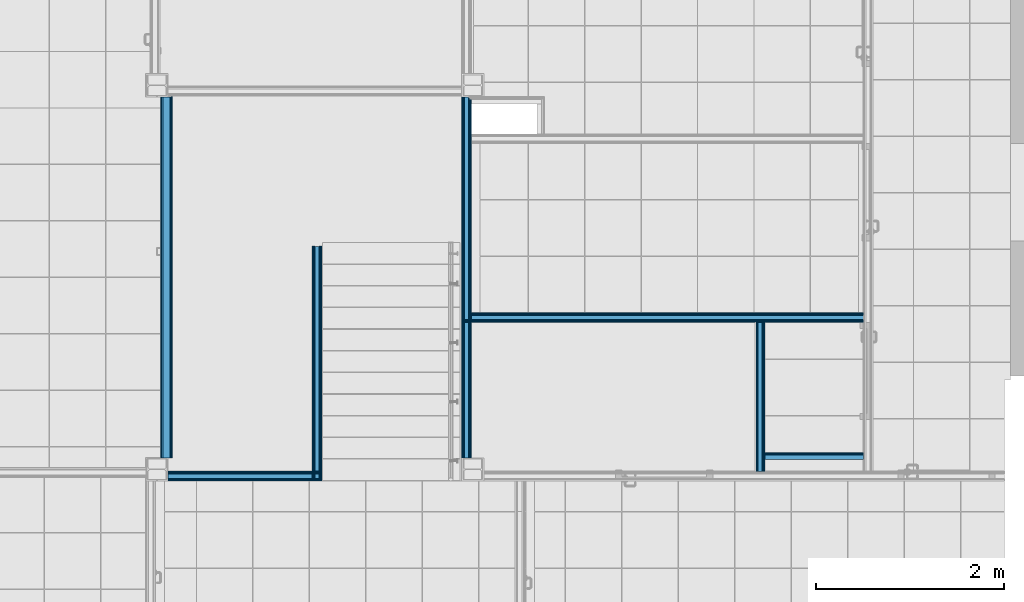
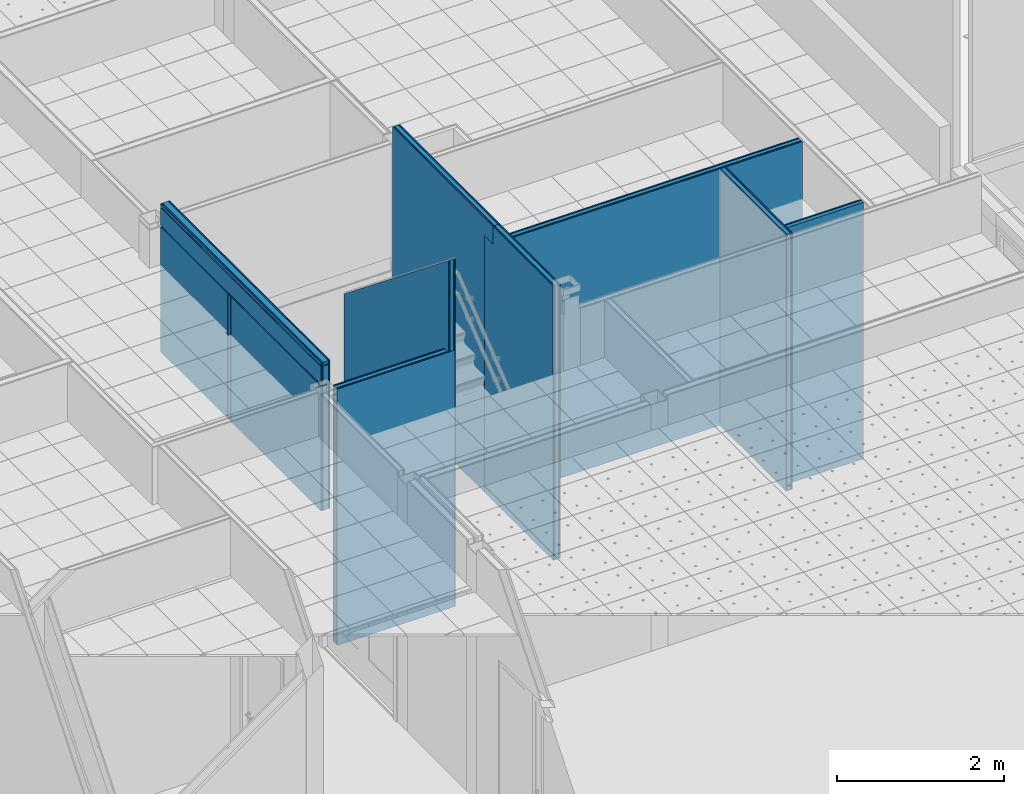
# One storey, part 81 of 338: 37 building element parts, 8 elements without a shape of their own.
"""IFC2X3 building model written with IfcOpenShell, lengths in millimetres."""

import ifcopenshell
import ifcopenshell.guid

model = None  # the IFC model being written
_history = None  # IfcOwnerHistory: only IFC2X3 demands one
_inside = {}  # id of a spatial element -> (the spatial element, [elements in it])
_under = {}  # id of a project, library or spatial element -> (it, [spatial elements below it])
_declared = {}  # id of a project -> (the project, [libraries it declares])
_typed = {}  # id of a type object -> (the type object, [elements of that type])
_made_of = {}  # id of a material, layer set ... -> (it, [elements and type objects made of it])


def new_model(schema):
    """Start an empty IFC model of exactly this schema.

    Asked for "IFC4X3", IfcOpenShell would pick the latest addendum, in which some entities
    have other attributes; the version numbers below select the first issue.
    IFC2X3 requires an IfcOwnerHistory on every rooted entity: one is made here for all.
    """
    global model, _history
    if schema == "IFC4X3":
        model = ifcopenshell.file(schema_version=(4, 3, 0, 0))
    else:
        model = ifcopenshell.file(schema=schema)
    _inside.clear()
    _under.clear()
    _declared.clear()
    _typed.clear()
    _made_of.clear()
    _history = None
    if model.schema == "IFC2X3":
        org = make("IfcOrganization", Name="unknown")
        user = make(
            "IfcPersonAndOrganization",
            ThePerson=make("IfcPerson", FamilyName="unknown"),
            TheOrganization=org,
        )
        app = make(
            "IfcApplication",
            ApplicationDeveloper=org,
            Version="unknown",
            ApplicationFullName="unknown",
            ApplicationIdentifier="unknown",
        )
        _history = make(
            "IfcOwnerHistory",
            OwningUser=user,
            OwningApplication=app,
            ChangeAction="ADDED",
            CreationDate=0,
        )
    return model


def make(cls, **values):
    """One entity of the class cls with the attributes given. An attribute that is None is left unset."""
    return model.create_entity(
        cls, **{name: value for name, value in values.items() if value is not None}
    )


def entity(cls, *values):
    """Any entity or typed value of the class cls, its attributes in the order of the schema. None: left unset."""
    e = model.create_entity(cls)
    for i, value in enumerate(values):
        if value is not None:
            e[i] = value
    return e


def rooted(cls, **values):
    """An entity with a GlobalId (a new one), such as an element, a storey or a relation."""
    return make(cls, GlobalId=ifcopenshell.guid.new(), OwnerHistory=_history, **values)


def si_unit(unit_type, name, prefix=None):
    """IfcSIUnit, for example si_unit("LENGTHUNIT", "METRE", prefix="MILLI")."""
    return make("IfcSIUnit", UnitType=unit_type, Prefix=prefix, Name=name)


def converted_unit(unit_type, name, factor, base, dimensions=None, offset=None):
    """IfcConversionBasedUnit, such as the inch: factor (a typed value) times the base unit."""
    return make(
        "IfcConversionBasedUnit"
        if offset is None
        else "IfcConversionBasedUnitWithOffset",
        ConversionOffset=offset,
        Dimensions=None
        if dimensions is None
        else entity("IfcDimensionalExponents", *dimensions),
        UnitType=unit_type,
        Name=name,
        ConversionFactor=make(
            "IfcMeasureWithUnit", ValueComponent=factor, UnitComponent=base
        ),
    )


def derived_unit(unit_type, elements):
    """IfcDerivedUnit: a product of units, each with its exponent."""
    return make(
        "IfcDerivedUnit",
        Elements=[
            make("IfcDerivedUnitElement", Unit=unit, Exponent=power)
            for unit, power in elements
        ],
        UnitType=unit_type,
    )


def money_unit(currency):
    """IfcMonetaryUnit."""
    return make("IfcMonetaryUnit", Currency=currency)


def assignment(units):
    """IfcUnitAssignment: the units of a project."""
    return None if units is None else make("IfcUnitAssignment", Units=units)


def point(xyz):
    """IfcCartesianPoint."""
    return None if xyz is None else make("IfcCartesianPoint", Coordinates=xyz)


def direction(xyz):
    """IfcDirection."""
    return None if xyz is None else make("IfcDirection", DirectionRatios=xyz)


def frame(location, z_axis=None, x_axis=None):
    """IfcAxis2Placement3D, a coordinate frame: its origin and axes. An axis left out is left unset."""
    return make(
        "IfcAxis2Placement3D",
        Location=point(location),
        Axis=direction(z_axis),
        RefDirection=direction(x_axis),
    )


def origin_with_axes():
    """The frame at (0, 0, 0) with the z axis (0, 0, 1) and the x axis (1, 0, 0) written out."""
    return frame((0.0, 0.0, 0.0), z_axis=(0.0, 0.0, 1.0), x_axis=(1.0, 0.0, 0.0))


def place(relative_to, where):
    """IfcLocalPlacement: puts the frame where relative to a parent placement (None: the world)."""
    return make(
        "IfcLocalPlacement", PlacementRelTo=relative_to, RelativePlacement=where
    )


def context(
    kind, dimensions, precision=None, world=None, true_north=None, identifier=None
):
    """IfcGeometricRepresentationContext, for example the 3D "Model" context."""
    return make(
        "IfcGeometricRepresentationContext",
        ContextIdentifier=identifier,
        ContextType=kind,
        CoordinateSpaceDimension=dimensions,
        Precision=precision,
        WorldCoordinateSystem=world,
        TrueNorth=true_north,
    )


def subcontext(parent, identifier, kind, view, scale=None):
    """IfcGeometricRepresentationSubContext, for example "Body" below "Model"."""
    return make(
        "IfcGeometricRepresentationSubContext",
        ContextIdentifier=identifier,
        ContextType=kind,
        ParentContext=parent,
        TargetScale=scale,
        TargetView=view,
    )


def project(units=None, contexts=None):
    """IfcProject with its units and contexts."""
    return rooted(
        "IfcProject",
        Name="project",
        RepresentationContexts=contexts,
        UnitsInContext=assignment(units),
    )


def spatial(cls, under=None, at=None, **own):
    """A site, building, storey or space (cls), placed at a placement, below another one or the project."""
    s = rooted(cls, ObjectPlacement=at, **own)
    if under is not None:
        _under.setdefault(under.id(), (under, []))[1].append(s)
    return s


def faces_of(points, faces, orient=None, outer=None):
    """IfcFace entities. A face is a list of loops; a loop is a list of indices into points, from 0.

    orient and outer hold one flag for each loop. By default every Orientation is true, the
    first loop of a face is its IfcFaceOuterBound and the others are IfcFaceBound.
    """
    made = []
    for i, loops in enumerate(faces):
        bounds = []
        for j, loop in enumerate(loops):
            is_outer = j == 0 if outer is None else outer[i][j]
            bounds.append(
                make(
                    "IfcFaceOuterBound" if is_outer else "IfcFaceBound",
                    Bound=make("IfcPolyLoop", Polygon=[points[k] for k in loop]),
                    Orientation=True if orient is None else orient[i][j],
                )
            )
        made.append(make("IfcFace", Bounds=bounds))
    return made


def faceted_brep(points, faces, orient=None, outer=None, voids=None):
    """IfcFacetedBrep: a solid bounded by flat faces; with voids (closed shells), ...WithVoids."""
    shared = [point(p) for p in points]
    hull = make("IfcClosedShell", CfsFaces=faces_of(shared, faces, orient, outer))
    if voids is None:
        return make("IfcFacetedBrep", Outer=hull)
    return make(
        "IfcFacetedBrepWithVoids",
        Outer=hull,
        Voids=[
            make(cls, CfsFaces=faces_of(shared, fs, o, b)) for cls, fs, o, b in voids
        ],
    )


def shape(context_of_items, identifier, shape_type, items):
    """IfcShapeRepresentation: the items that make up one representation, for example the "Body"."""
    return make(
        "IfcShapeRepresentation",
        ContextOfItems=context_of_items,
        RepresentationIdentifier=identifier,
        RepresentationType=shape_type,
        Items=items,
    )


def material(Name=None, Category=None):
    """IfcMaterial."""
    return make("IfcMaterial", Name=Name, Category=Category)


def made_of(thing, what):
    """Note that an element or type object is made of a material, layer set ...; save() writes the relation."""
    if what is not None:
        _made_of.setdefault(what.id(), (what, []))[1].append(thing)
    return thing


def type_object(cls, material=None, **own):
    """A type object (cls), such as IfcWallType, which elements share."""
    return made_of(rooted(cls, **own), material)


def element(
    cls,
    number,
    at=None,
    inside=None,
    cuts=None,
    type_object=None,
    material=None,
    context=None,
    identifier="Body",
    shape_type=None,
    held_by="IfcProductDefinitionShape",
    body=None,
    shapes=None,
    **own,
):
    """One element of the class cls, such as IfcWall. Its Tag is "e" and its number.

    at: its placement. inside: the storey or other place that contains it. cuts: it is an
    opening in that element (IfcRelVoidsElement). A single representation is given by context,
    identifier, shape_type and body (its items); several are given by shapes. held_by: the class
    of the entity that holds the representations. save() writes the other relations.
    """
    e = rooted(cls, Tag="e%d" % number, ObjectPlacement=at, **own)
    if body is not None:
        shapes = [shape(context, identifier, shape_type, body)]
    if shapes is not None:
        e.Representation = make(held_by, Representations=shapes)
    if inside is not None:
        _inside.setdefault(inside.id(), (inside, []))[1].append(e)
    if cuts is not None:
        rooted(
            "IfcRelVoidsElement", RelatingBuildingElement=cuts, RelatedOpeningElement=e
        )
    if type_object is not None:
        _typed.setdefault(type_object.id(), (type_object, []))[1].append(e)
    return made_of(e, material)


def aggregate(whole, parts):
    """IfcRelAggregates: a whole, such as a stair, and the parts it consists of."""
    return rooted("IfcRelAggregates", RelatingObject=whole, RelatedObjects=parts)


def save(model, path):
    """Write the relations noted so far, then the file.

    IfcRelAggregates (storeys below a building ...), IfcRelContainedInSpatialStructure (elements
    in a storey), IfcRelDefinesByType, IfcRelAssociatesMaterial and IfcRelDeclares: one each for
    every whole, place, type object, material and project.
    """
    for whole, parts in _under.values():
        aggregate(whole, parts)
    for where, things in _inside.values():
        rooted(
            "IfcRelContainedInSpatialStructure",
            RelatedElements=things,
            RelatingStructure=where,
        )
    for kind, things in _typed.values():
        rooted("IfcRelDefinesByType", RelatedObjects=things, RelatingType=kind)
    for what, things in _made_of.values():
        rooted("IfcRelAssociatesMaterial", RelatedObjects=things, RelatingMaterial=what)
    for by, libraries in _declared.values():
        rooted("IfcRelDeclares", RelatingContext=by, RelatedDefinitions=libraries)
    model.write(path)


model = new_model("IFC2X3")

# Units and contexts
model_context = context("Model", 3, precision=0.01, world=origin_with_axes(), true_north=direction((0.0, 1.0)))
plan_context = context("Plan", 3, precision=0.01, world=origin_with_axes(), true_north=direction((0.0, 1.0)))
body_context = subcontext(model_context, "Body", "Model", "MODEL_VIEW")
ifc_project = project(units=[si_unit("LENGTHUNIT", "METRE", prefix="MILLI"), si_unit("AREAUNIT", "SQUARE_METRE"), si_unit("VOLUMEUNIT", "CUBIC_METRE"), converted_unit("PLANEANGLEUNIT", "DEGREE", entity("IfcPlaneAngleMeasure", 0.0174532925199), si_unit("PLANEANGLEUNIT", "RADIAN"), dimensions=[0, 0, 0, 0, 0, 0, 0]), money_unit("EUR"), converted_unit("TIMEUNIT", "Year", entity("IfcTimeMeasure", 31556926.0), si_unit("TIMEUNIT", "SECOND"), dimensions=[0, 0, 1, 0, 0, 0, 0]), si_unit("MASSUNIT", "GRAM", prefix="KILO"), si_unit("THERMODYNAMICTEMPERATUREUNIT", "DEGREE_CELSIUS"), si_unit("LUMINOUSINTENSITYUNIT", "LUMEN"), si_unit("ENERGYUNIT", "JOULE", prefix="MEGA"), derived_unit("THERMALCONDUCTANCEUNIT", [(si_unit("POWERUNIT", "WATT"), 1), (si_unit("LENGTHUNIT", "METRE"), -1), (si_unit("THERMODYNAMICTEMPERATUREUNIT", "KELVIN"), -1)]), derived_unit("SPECIFICHEATCAPACITYUNIT", [(si_unit("ENERGYUNIT", "JOULE"), 1), (si_unit("MASSUNIT", "GRAM", prefix="KILO"), -1), (si_unit("THERMODYNAMICTEMPERATUREUNIT", "KELVIN"), -1)]), derived_unit("MASSDENSITYUNIT", [(si_unit("MASSUNIT", "GRAM", prefix="KILO"), 1), (si_unit("VOLUMEUNIT", "CUBIC_METRE"), -1)])], contexts=[model_context, plan_context])

# Site, building, storey
site_placement = place(None, origin_with_axes())
site = spatial("IfcSite", under=ifc_project, at=site_placement, Name="Fortuinstraat Woensdrecht", CompositionType="ELEMENT")
building_placement = place(site_placement, origin_with_axes())
building = spatial("IfcBuilding", under=site, at=building_placement, Name="IKC Fortuna", CompositionType="ELEMENT")
storey_placement = place(building_placement, origin_with_axes())
storey = spatial("IfcBuildingStorey", under=building, at=storey_placement, Name="00 begane grond", CompositionType="ELEMENT", Elevation=0.0)

# Covering, building element parts
covering_type = type_object("IfcCoveringType", Name="MS125 2.75.2A 125", PredefinedType="NOTDEFINED")
covering_placement = place(storey_placement, frame((25777.9349765, 23879.7966407, 1750.0), z_axis=(0.0, 0.0, 1.0), x_axis=(0.0, -1.0, 0.0)))
covering = element("IfcCovering", 1, at=covering_placement, inside=storey, type_object=covering_type, Name="41_Afwerking_Waterslag", PredefinedType="NOTDEFINED")
ifc_material_1 = material(Name="Gipsplaat")
building_element_part_1_placement = place(covering_placement, origin_with_axes())
building_element_part_1 = element("IfcBuildingElementPart", 2, at=building_element_part_1_placement, material=ifc_material_1, Name="Gipsplaat", context=body_context, shape_type="Brep", body=[
    faceted_brep([(3835.00001242, 0.0, 0.0), (0.0, 0.0, 0.0), (0.0, 0.0, 50.0), (1682.50001242, 0.0, 50.0), (1682.50001242, 0.0, 250.0), (0.0, 0.0, 250.0), (0.0, 0.0, 2160.0), (3835.00001242, 0.0, 2160.0), (3835.00001242, -12.5, 0.0), (0.0, -12.5, 0.0), (0.0, -12.5, 50.0), (1682.50001242, -12.5, 50.0), (1682.50001242, -12.5, 250.0), (0.0, -12.5, 250.0), (0.0, -12.5, 2160.0), (3835.00001242, -12.5, 2160.0)], [[[0, 1, 2, 3, 4, 5, 6, 7]], [[0, 8, 9, 1]], [[2, 1, 9, 10]], [[2, 10, 11, 3]], [[3, 11, 12, 4]], [[5, 4, 12, 13]], [[13, 14, 6, 5]], [[15, 7, 6, 14]], [[15, 8, 0, 7]], [[14, 13, 12, 11, 10, 9, 8, 15]]]),
])
building_element_part_2_placement = place(covering_placement, origin_with_axes())
building_element_part_2 = element("IfcBuildingElementPart", 3, at=building_element_part_2_placement, material=ifc_material_1, Name="Gipsplaat", context=body_context, shape_type="Brep", body=[
    faceted_brep([(0.0, -12.5, 250.0), (0.0, -25.0, 250.0), (0.0, -25.0, 1820.0), (0.0, -12.5, 1820.0), (1682.50001242, -12.5, 250.0), (1682.50001242, -25.0, 250.0), (0.0, -25.0, 0.0), (3835.00001242, -25.0, 0.0), (3835.00001242, -25.0, 1820.0), (1682.50001242, -25.0, 50.0), (0.0, -25.0, 50.0), (3835.00001242, -12.5, 1820.0), (3835.00001242, -12.5, 0.0), (0.0, -12.5, 0.0), (0.0, -12.5, 50.0), (1682.50001242, -12.5, 50.0)], [[[0, 1, 2, 3]], [[0, 4, 5, 1]], [[6, 7, 8, 2, 1, 5, 9, 10]], [[2, 8, 11, 3]], [[4, 0, 3, 11, 12, 13, 14, 15]], [[15, 9, 5, 4]], [[12, 7, 6, 13]], [[7, 12, 11, 8]], [[14, 10, 9, 15]], [[14, 13, 6, 10]]]),
    faceted_brep([(0.0, -12.5, 2101.0), (3835.00001242, -12.5, 2101.0), (3835.00001242, -12.5, 1839.0), (0.0, -12.5, 1839.0), (0.0, -25.0, 2101.0), (3835.00001242, -25.0, 2101.0), (3835.00001242, -25.0, 1839.0), (0.0, -25.0, 1839.0)], [[[0, 1, 2, 3]], [[1, 0, 4, 5]], [[1, 5, 6, 2]], [[7, 3, 2, 6]], [[4, 0, 3, 7]], [[5, 4, 7, 6]]]),
    faceted_brep([(3835.00001242, -12.5, 2120.0), (0.0, -12.5, 2120.0), (0.0, -12.5, 2160.0), (3835.00001242, -12.5, 2160.0), (0.0, -25.0, 2120.0), (3835.00001242, -25.0, 2120.0), (0.0, -25.0, 2160.0), (3835.00001242, -25.0, 2160.0)], [[[0, 1, 2, 3]], [[4, 1, 0, 5]], [[1, 4, 6, 2]], [[2, 6, 7, 3]], [[5, 0, 3, 7]], [[4, 5, 7, 6]]]),
])
ifc_material_2 = material(Name="Isolatie - Steenwol LSW")
building_element_part_3_placement = place(covering_placement, origin_with_axes())
building_element_part_3 = element("IfcBuildingElementPart", 4, at=building_element_part_3_placement, material=ifc_material_2, Name="Isolatie - Steenwol LSW", context=body_context, shape_type="Brep", body=[
    faceted_brep([(1682.50001242, -79.5, 200.0), (1682.50001242, -83.5, 200.0), (1672.50001245, -83.500000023, 200.0), (1612.50001245, -83.500000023, 200.0), (0.0, -83.5, 200.0), (0.0, -79.5, 200.0), (1682.50001242, -75.2573593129, 198.242640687), (1682.50001242, -73.5, 194.0), (1682.50001242, -73.5, 50.0), (1682.50001242, -83.5, 50.0), (1672.50001245, -83.500000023, 50.0), (1672.50001245, -83.500000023, 1820.0), (1612.50001245, -83.500000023, 1820.0), (0.0, -83.5, 50.0), (1612.50001245, -83.500000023, 50.0), (0.0, -25.0, 50.0), (0.0, -25.0, 0.0), (0.0, -100.0, 0.0), (0.0, -100.0, 1820.0), (0.0, -25.0, 1820.0), (0.0, -25.0, 250.0), (0.0, -73.5, 250.0), (0.0, -73.5, 194.0), (0.0, -75.2573593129, 198.242640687), (1682.50001242, -25.0, 250.0), (1682.50001242, -25.0, 50.0), (1682.50001242, -73.5, 250.0), (1672.50001245, -83.500000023, 0.0), (1679.57108026, -86.4289322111, 0.0), (1679.57108026, -86.4289322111, 1820.0), (1602.50001245, -100.0, 1820.0), (1602.50001245, -93.500000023, 1820.0), (1605.42894463, -86.4289322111, 1820.0), (1682.50001245, -93.500000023, 1820.0), (1682.50001245, -100.0, 1820.0), (3835.00001242, -100.0, 1820.0), (3835.00001242, -25.0, 1820.0), (1605.42894463, -86.4289322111, 0.0), (1612.50001245, -83.500000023, 0.0), (3835.00001242, -25.0, 0.0), (1602.50001245, -93.500000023, 0.0), (1602.50001245, -100.0, 0.0), (3835.00001242, -100.0, 0.0), (1682.50001245, -100.0, 0.0), (1682.50001245, -93.500000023, 0.0)], [[[0, 1, 2, 3, 4, 5]], [[1, 0, 6, 7, 8, 9]], [[1, 9, 10, 2]], [[3, 2, 11, 12]], [[13, 4, 3, 14]], [[15, 16, 17, 18, 19, 20, 21, 22, 23, 5, 4, 13]], [[23, 6, 0, 5]], [[22, 7, 6, 23]], [[24, 25, 8, 7, 26]], [[15, 13, 14, 10, 9, 8, 25]], [[27, 28, 29, 11, 2, 10]], [[18, 30, 31, 32, 12, 11, 29, 33, 34, 35, 36, 19]], [[14, 3, 12, 32, 37, 38]], [[25, 24, 20, 19, 36, 39, 16, 15]], [[38, 37, 40, 41, 17, 16, 39, 42, 43, 44, 28, 27]], [[18, 17, 41, 30]], [[21, 20, 24, 26]], [[22, 21, 26, 7]], [[38, 27, 10, 14]], [[28, 44, 33, 29]], [[41, 40, 31, 30]], [[40, 37, 32, 31]], [[44, 43, 34, 33]], [[42, 35, 34, 43]], [[35, 42, 39, 36]]]),
    faceted_brep([(1673.91422601, -92.0857864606, 1820.0), (1672.50001245, -91.500000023, 1820.0), (1612.50001245, -91.500000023, 1820.0), (1611.08579888, -92.0857864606, 1820.0), (1610.50001245, -93.500000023, 1820.0), (1610.50001245, -100.0, 1820.0), (1674.50001245, -100.0, 1820.0), (1674.50001245, -93.500000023, 1820.0), (1673.91422601, -92.0857864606, 0.0), (1672.50001245, -91.500000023, 0.0), (1612.50001245, -91.500000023, 0.0), (1611.08579888, -92.0857864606, 0.0), (1610.50001245, -93.500000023, 0.0), (1610.50001245, -100.0, 0.0), (1674.50001245, -100.0, 0.0), (1674.50001245, -93.500000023, 0.0)], [[[0, 1, 2, 3, 4, 5, 6, 7]], [[1, 0, 8, 9]], [[2, 1, 9, 10]], [[3, 2, 10, 11]], [[4, 3, 11, 12]], [[5, 4, 12, 13]], [[14, 6, 5, 13]], [[7, 6, 14, 15]], [[0, 7, 15, 8]], [[15, 14, 13, 12, 11, 10, 9, 8]]]),
    faceted_brep([(0.0, -25.0, 1839.0), (0.0, -25.0, 2101.0), (3835.00001242, -25.0, 2101.0), (3835.00001242, -25.0, 1839.0), (0.0, -100.0, 1839.0), (0.0, -100.0, 2101.0), (3835.00001242, -100.0, 2101.0), (3835.00001242, -100.0, 1839.0)], [[[0, 1, 2, 3]], [[4, 5, 1, 0]], [[6, 2, 1, 5]], [[3, 2, 6, 7]], [[7, 4, 0, 3]], [[7, 6, 5, 4]]]),
    faceted_brep([(3835.00001242, -25.0, 2120.0), (0.0, -25.0, 2120.0), (0.0, -25.0, 2160.0), (3835.00001242, -25.0, 2160.0), (0.0, -100.0, 2120.0), (3835.00001242, -100.0, 2120.0), (0.0, -100.0, 2160.0), (3835.00001242, -100.0, 2160.0)], [[[0, 1, 2, 3]], [[4, 1, 0, 5]], [[1, 4, 6, 2]], [[2, 6, 7, 3]], [[5, 0, 3, 7]], [[4, 5, 7, 6]]]),
])
building_element_part_4_placement = place(covering_placement, origin_with_axes())
building_element_part_4 = element("IfcBuildingElementPart", 5, at=building_element_part_4_placement, material=ifc_material_1, Name="Gipsplaat", context=body_context, shape_type="Brep", body=[
    faceted_brep([(1682.50001245, -100.0, 0.0), (1682.50001245, -100.0, 1820.0), (3835.00001242, -100.0, 1820.0), (3835.00001242, -100.0, 0.0), (1682.50001245, -112.5, 1820.0), (1682.50001245, -112.5, 0.0), (3835.00001242, -112.5, 1820.0), (3835.00001242, -112.5, 0.0)], [[[0, 1, 2, 3]], [[4, 1, 0, 5]], [[1, 4, 6, 2]], [[3, 2, 6, 7]], [[5, 0, 3, 7]], [[4, 5, 7, 6]]]),
    faceted_brep([(0.0, -100.0, 1839.0), (0.0, -100.0, 2101.0), (3835.00001242, -100.0, 2101.0), (3835.00001242, -100.0, 1839.0), (0.0, -112.5, 1839.0), (0.0, -112.5, 2101.0), (3835.00001242, -112.5, 2101.0), (3835.00001242, -112.5, 1839.0)], [[[0, 1, 2, 3]], [[4, 5, 1, 0]], [[6, 2, 1, 5]], [[3, 2, 6, 7]], [[7, 4, 0, 3]], [[7, 6, 5, 4]]]),
    faceted_brep([(1610.50001245, -100.0, 1820.0), (1610.50001245, -112.5, 1820.0), (1674.50001245, -112.5, 1820.0), (1674.50001245, -100.0, 1820.0), (1610.50001245, -100.0, 0.0), (1610.50001245, -112.5, 0.0), (1674.50001245, -112.5, 0.0), (1674.50001245, -100.0, 0.0)], [[[0, 1, 2, 3]], [[1, 0, 4, 5]], [[1, 5, 6, 2]], [[7, 3, 2, 6]], [[4, 0, 3, 7]], [[5, 4, 7, 6]]]),
    faceted_brep([(1602.50001245, -112.5, 1820.0), (1602.50001245, -100.0, 1820.0), (0.0, -100.0, 1820.0), (0.0, -112.5, 1820.0), (1602.50001245, -100.0, 0.0), (1602.50001245, -112.5, 0.0), (0.0, -100.0, 0.0), (0.0, -112.5, 0.0)], [[[0, 1, 2, 3]], [[4, 1, 0, 5]], [[1, 4, 6, 2]], [[7, 3, 2, 6]], [[5, 0, 3, 7]], [[4, 5, 7, 6]]]),
    faceted_brep([(3835.00001242, -100.0, 2120.0), (0.0, -100.0, 2120.0), (0.0, -100.0, 2160.0), (3835.00001242, -100.0, 2160.0), (0.0, -112.5, 2120.0), (3835.00001242, -112.5, 2120.0), (0.0, -112.5, 2160.0), (3835.00001242, -112.5, 2160.0)], [[[0, 1, 2, 3]], [[4, 1, 0, 5]], [[1, 4, 6, 2]], [[2, 6, 7, 3]], [[5, 0, 3, 7]], [[4, 5, 7, 6]]]),
])
building_element_part_5_placement = place(covering_placement, origin_with_axes())
building_element_part_5 = element("IfcBuildingElementPart", 6, at=building_element_part_5_placement, material=ifc_material_1, Name="Gipsplaat", context=body_context, shape_type="Brep", body=[
    faceted_brep([(1682.50001245, -112.5, 0.0), (1682.50001245, -112.5, 1820.0), (3835.00001242, -112.5, 1820.0), (3835.00001242, -112.5, 0.0), (1682.50001245, -125.0, 1820.0), (1682.50001245, -125.0, 0.0), (3835.00001242, -125.0, 1820.0), (3835.00001242, -125.0, 0.0)], [[[0, 1, 2, 3]], [[4, 1, 0, 5]], [[1, 4, 6, 2]], [[3, 2, 6, 7]], [[5, 0, 3, 7]], [[4, 5, 7, 6]]]),
    faceted_brep([(0.0, -112.5, 1839.0), (0.0, -112.5, 2101.0), (3835.00001242, -112.5, 2101.0), (3835.00001242, -112.5, 1839.0), (0.0, -125.0, 1839.0), (0.0, -125.0, 2101.0), (3835.00001242, -125.0, 2101.0), (3835.00001242, -125.0, 1839.0)], [[[0, 1, 2, 3]], [[4, 5, 1, 0]], [[6, 2, 1, 5]], [[3, 2, 6, 7]], [[7, 4, 0, 3]], [[7, 6, 5, 4]]]),
    faceted_brep([(1610.50001245, -112.5, 1820.0), (1610.50001245, -125.0, 1820.0), (1674.50001245, -125.0, 1820.0), (1674.50001245, -112.5, 1820.0), (1610.50001245, -112.5, 0.0), (1610.50001245, -125.0, 0.0), (1674.50001245, -125.0, 0.0), (1674.50001245, -112.5, 0.0)], [[[0, 1, 2, 3]], [[1, 0, 4, 5]], [[1, 5, 6, 2]], [[7, 3, 2, 6]], [[4, 0, 3, 7]], [[5, 4, 7, 6]]]),
    faceted_brep([(1602.50001245, -125.0, 1820.0), (1602.50001245, -112.5, 1820.0), (0.0, -112.5, 1820.0), (0.0, -125.0, 1820.0), (1602.50001245, -112.5, 0.0), (1602.50001245, -125.0, 0.0), (0.0, -112.5, 0.0), (0.0, -125.0, 0.0)], [[[0, 1, 2, 3]], [[4, 1, 0, 5]], [[1, 4, 6, 2]], [[7, 3, 2, 6]], [[5, 0, 3, 7]], [[4, 5, 7, 6]]]),
    faceted_brep([(3835.00001242, -112.5, 2120.0), (0.0, -112.5, 2120.0), (0.0, -112.5, 2160.0), (3835.00001242, -112.5, 2160.0), (0.0, -125.0, 2120.0), (3835.00001242, -125.0, 2120.0), (0.0, -125.0, 2160.0), (3835.00001242, -125.0, 2160.0)], [[[0, 1, 2, 3]], [[4, 1, 0, 5]], [[1, 4, 6, 2]], [[2, 6, 7, 3]], [[5, 0, 3, 7]], [[4, 5, 7, 6]]]),
])
aggregate(covering, [building_element_part_1, building_element_part_2, building_element_part_3, building_element_part_4, building_element_part_5])

# Wall, building element parts
wall_type_1 = type_object("IfcWallType", Name="MS100 2.50.2A 100", PredefinedType="NOTDEFINED")
wall_1_placement = place(storey_placement, frame((28851.9349765, 23879.7966283, -90.0), z_axis=(0.0, 0.0, 1.0), x_axis=(0.0, -1.0, 0.0)))
wall_1 = element("IfcWall", 7, at=wall_1_placement, inside=storey, type_object=wall_type_1, Name="22_Wand_Binnenwand")
building_element_part_6_placement = place(wall_1_placement, origin_with_axes())
building_element_part_6 = element("IfcBuildingElementPart", 8, at=building_element_part_6_placement, material=ifc_material_1, Name="Gipsplaat", context=body_context, shape_type="Brep", body=[
    faceted_brep([(25.0, 100.0, 0.0), (25.0, 100.000000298, 3740.0), (0.0, 100.000000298, 3740.0), (0.0, 100.000000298, 4000.0), (2395.2830799, 100.000000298, 4000.0), (2395.2830799, 100.000000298, 3740.0), (2307.7830799, 100.000000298, 3740.0), (2307.7830799, 100.0, 0.0), (25.0, 87.5, 0.0), (25.0, 87.5, 3740.0), (0.0, 87.5, 3740.0), (0.0, 87.5, 4000.0), (2395.2830799, 87.5, 4000.0), (2395.2830799, 87.5, 3740.0), (2320.2830799, 87.5, 3740.0), (2307.7830799, 87.5, 3740.0), (2307.7830799, 87.5, 0.0)], [[[0, 1, 2, 3, 4, 5, 6, 7]], [[1, 0, 8, 9]], [[2, 1, 9, 10]], [[2, 10, 11, 3]], [[4, 3, 11, 12]], [[13, 5, 4, 12]], [[14, 15, 6, 5, 13]], [[7, 6, 15, 16]], [[8, 0, 7, 16]], [[9, 8, 16, 15, 14, 13, 12, 11, 10]]]),
])
building_element_part_7_placement = place(wall_1_placement, origin_with_axes())
building_element_part_7 = element("IfcBuildingElementPart", 9, at=building_element_part_7_placement, material=ifc_material_1, Name="Gipsplaat", context=body_context, shape_type="Brep", body=[
    faceted_brep([(12.5, 87.5, 0.0), (12.5, 87.5, 3740.0), (0.0, 87.5, 3740.0), (0.0, 87.5, 4000.0), (2395.2830799, 87.5, 4000.0), (2395.2830799, 87.5, 3740.0), (2320.2830799, 87.5, 3740.0), (2320.2830799, 87.5, 0.0), (12.5, 75.0, 0.0), (12.5, 75.0000011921, 3740.0), (0.0, 75.0000011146, 3740.0), (0.0, 75.0000011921, 4000.0), (2395.2830799, 75.0000011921, 4000.0), (2395.2830799, 75.0000011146, 3740.0), (2370.2830799, 75.0, 3740.0), (2320.2830799, 75.0, 3740.0), (2320.2830799, 75.0, 0.0)], [[[0, 1, 2, 3, 4, 5, 6, 7]], [[1, 0, 8, 9]], [[10, 2, 1, 9]], [[2, 10, 11, 3]], [[4, 3, 11, 12]], [[13, 5, 4, 12]], [[14, 15, 6, 5, 13]], [[7, 6, 15, 16]], [[8, 0, 7, 16]], [[9, 8, 16, 15, 14, 13, 12, 11, 10]]]),
])
building_element_part_8_placement = place(wall_1_placement, origin_with_axes())
building_element_part_8 = element("IfcBuildingElementPart", 10, at=building_element_part_8_placement, material=ifc_material_2, Name="Isolatie - Steenwol LSW", context=body_context, shape_type="Brep", body=[
    faceted_brep([(2370.2830799, 75.0000011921, 3740.0), (2370.2830799, 75.0, 0.0), (-1.63912972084e-05, 75.0, 0.0), (0.0, 75.0000011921, 4000.0), (2395.2830799, 75.0000011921, 4000.0), (2395.2830799, 75.0000011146, 3740.0), (2370.2830799, 25.0, 3740.0), (2370.2830799, 25.0, 0.0), (-1.63912972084e-05, 25.0, 0.0), (0.0, 24.9999991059, 4000.0), (2395.2830799, 24.9999991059, 4000.0), (2395.2830799, 24.999999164, 3740.0), (2382.7830799, 25.0, 3740.0)], [[[0, 1, 2, 3, 4, 5]], [[1, 0, 6, 7]], [[1, 7, 8, 2]], [[8, 9, 3, 2]], [[4, 3, 9, 10]], [[11, 5, 4, 10]], [[12, 6, 0, 5, 11]], [[6, 12, 11, 10, 9, 8, 7]]]),
])
building_element_part_9_placement = place(wall_1_placement, origin_with_axes())
building_element_part_9 = element("IfcBuildingElementPart", 11, at=building_element_part_9_placement, material=ifc_material_1, Name="Gipsplaat", context=body_context, shape_type="Brep", body=[
    faceted_brep([(2382.7830799, 24.9999991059, 3740.0), (2382.7830799, 25.0, 0.0), (-1.63912972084e-05, 25.0, 0.0), (0.0, 24.9999991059, 4000.0), (2395.2830799, 24.9999991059, 4000.0), (2395.2830799, 24.999999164, 3740.0), (2382.7830799, 12.5, 3740.0), (2382.7830799, 12.5, 0.0), (-1.63912936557e-05, 12.5, 0.0), (0.0, 12.5, 4000.0), (2395.2830799, 12.5, 4000.0), (2395.2830799, 12.5, 3740.0)], [[[0, 1, 2, 3, 4, 5]], [[1, 0, 6, 7]], [[1, 7, 8, 2]], [[8, 9, 3, 2]], [[4, 3, 9, 10]], [[11, 5, 4, 10]], [[0, 5, 11, 6]], [[6, 11, 10, 9, 8, 7]]]),
])
building_element_part_10_placement = place(wall_1_placement, origin_with_axes())
building_element_part_10 = element("IfcBuildingElementPart", 12, at=building_element_part_10_placement, material=ifc_material_1, Name="Gipsplaat", context=body_context, shape_type="Brep", body=[
    faceted_brep([(2195.2830799, 12.5, 3740.0), (2195.2830799, 12.5, 0.0), (-1.63912936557e-05, 12.5, 0.0), (0.0, 12.5, 4000.0), (2395.2830799, 12.5, 4000.0), (2395.2830799, 12.5, 3740.0), (2195.2830799, 0.0, 3740.0), (2195.2830799, 0.0, 0.0), (-1.63912936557e-05, 0.0, 0.0), (0.0, 0.0, 3740.0), (0.0, 0.0, 4000.0), (2395.2830799, 0.0, 4000.0), (2395.2830799, 0.0, 3740.0)], [[[0, 1, 2, 3, 4, 5]], [[1, 0, 6, 7]], [[1, 7, 8, 2]], [[8, 9, 10, 3, 2]], [[4, 3, 10, 11]], [[12, 5, 4, 11]], [[0, 5, 12, 6]], [[6, 12, 11, 10, 9, 8, 7]]]),
])
aggregate(wall_1, [building_element_part_6, building_element_part_7, building_element_part_8, building_element_part_9, building_element_part_10])

wall_2_placement = place(storey_placement, frame((28851.9349765, 21484.5135484, -90.0), z_axis=(0.0, 0.0, 1.0), x_axis=(1.0, 0.0, 0.0)))
wall_2 = element("IfcWall", 13, at=wall_2_placement, inside=storey, type_object=wall_type_1, Name="22_Wand_Binnenwand")
building_element_part_11_placement = place(wall_2_placement, origin_with_axes())
building_element_part_11 = element("IfcBuildingElementPart", 14, at=building_element_part_11_placement, material=ifc_material_1, Name="Gipsplaat", context=body_context, shape_type="Brep", body=[
    faceted_brep([(4267.72908855, 87.5, 3740.0), (4267.72908855, 100.0, 3740.0), (100.0, 100.0, 3740.0), (100.0, 87.5, 3740.0), (4267.72908855, 87.5, 0.0), (4267.72908855, 100.0, 0.0), (100.0, 100.0, 0.0), (100.0, 87.5, 0.0)], [[[0, 1, 2, 3]], [[1, 0, 4, 5]], [[1, 5, 6, 2]], [[7, 3, 2, 6]], [[4, 0, 3, 7]], [[5, 4, 7, 6]]]),
])
building_element_part_12_placement = place(wall_2_placement, origin_with_axes())
building_element_part_12 = element("IfcBuildingElementPart", 15, at=building_element_part_12_placement, material=ifc_material_1, Name="Gipsplaat", context=body_context, shape_type="Brep", body=[
    faceted_brep([(4267.72908855, 75.0, 3740.0), (4267.72908855, 87.5, 3740.0), (87.5, 87.5, 3740.0), (87.5, 75.0, 3740.0), (4267.72908855, 75.0, 0.0), (4267.72908855, 87.5, 0.0), (87.5, 87.5, 0.0), (87.5, 75.0, 0.0)], [[[0, 1, 2, 3]], [[1, 0, 4, 5]], [[1, 5, 6, 2]], [[7, 3, 2, 6]], [[4, 0, 3, 7]], [[5, 4, 7, 6]]]),
])
building_element_part_13_placement = place(wall_2_placement, origin_with_axes())
building_element_part_13 = element("IfcBuildingElementPart", 16, at=building_element_part_13_placement, material=ifc_material_2, Name="Isolatie - Steenwol LSW", context=body_context, shape_type="Brep", body=[
    faceted_brep([(4267.72908855, 25.0, 3740.0), (4267.72908855, 75.0, 3740.0), (75.0, 75.0, 3740.0), (75.0, 25.0, 3740.0), (4267.72908855, 25.0, 0.0), (4267.72908855, 75.0, 0.0), (75.0, 75.0, 0.0), (75.0, 25.0, 0.0)], [[[0, 1, 2, 3]], [[1, 0, 4, 5]], [[1, 5, 6, 2]], [[7, 3, 2, 6]], [[4, 0, 3, 7]], [[5, 4, 7, 6]]]),
])
building_element_part_14_placement = place(wall_2_placement, origin_with_axes())
building_element_part_14 = element("IfcBuildingElementPart", 17, at=building_element_part_14_placement, material=ifc_material_1, Name="Gipsplaat", context=body_context, shape_type="Brep", body=[
    faceted_brep([(4267.72908855, 12.5, 3740.0), (4267.72908855, 25.0, 3740.0), (25.0, 25.0, 3740.0), (25.0, 12.5, 3740.0), (4267.72908855, 12.5, 0.0), (4267.72908855, 25.0, 0.0), (25.0, 25.0, 0.0), (25.0, 12.5, 0.0)], [[[0, 1, 2, 3]], [[1, 0, 4, 5]], [[1, 5, 6, 2]], [[7, 3, 2, 6]], [[4, 0, 3, 7]], [[5, 4, 7, 6]]]),
])
building_element_part_15_placement = place(wall_2_placement, origin_with_axes())
building_element_part_15 = element("IfcBuildingElementPart", 18, at=building_element_part_15_placement, material=ifc_material_1, Name="Gipsplaat", context=body_context, shape_type="Brep", body=[
    faceted_brep([(4267.72908855, 0.0, 3740.0), (4267.72908855, 12.5, 3740.0), (12.5, 12.5, 3740.0), (12.5, 0.0, 3740.0), (4267.72908855, 0.0, 0.0), (4267.72908855, 12.5, 0.0), (12.5, 12.5, 0.0), (12.5, 0.0, 0.0)], [[[0, 1, 2, 3]], [[1, 0, 4, 5]], [[1, 5, 6, 2]], [[7, 3, 2, 6]], [[4, 0, 3, 7]], [[5, 4, 7, 6]]]),
])
aggregate(wall_2, [building_element_part_11, building_element_part_12, building_element_part_13, building_element_part_14, building_element_part_15])

wall_3_placement = place(storey_placement, frame((31970.1326154, 21484.5135484, -90.0), z_axis=(0.0, 0.0, 1.0), x_axis=(0.0, -1.0, 0.0)))
wall_3 = element("IfcWall", 19, at=wall_3_placement, inside=storey, type_object=wall_type_1, Name="22_Wand_Binnenwand")
building_element_part_16_placement = place(wall_3_placement, origin_with_axes())
building_element_part_16 = element("IfcBuildingElementPart", 20, at=building_element_part_16_placement, material=ifc_material_1, Name="Gipsplaat", context=body_context, shape_type="Brep", body=[
    faceted_brep([(1584.7169201, 100.0, 3740.0), (0.0, 100.0, 3740.0), (0.0, 87.5, 3740.0), (1584.7169201, 87.5, 3740.0), (1584.7169201, 100.0, 0.0), (0.0, 100.0, 0.0), (0.0, 87.5, 0.0), (1584.7169201, 87.5, 0.0)], [[[0, 1, 2, 3]], [[4, 5, 1, 0]], [[2, 1, 5, 6]], [[3, 2, 6, 7]], [[3, 7, 4, 0]], [[7, 6, 5, 4]]]),
])
building_element_part_17_placement = place(wall_3_placement, origin_with_axes())
building_element_part_17 = element("IfcBuildingElementPart", 21, at=building_element_part_17_placement, material=ifc_material_1, Name="Gipsplaat", context=body_context, shape_type="Brep", body=[
    faceted_brep([(1584.7169201, 87.5, 3740.0), (0.0, 87.5, 3740.0), (0.0, 75.0, 3740.0), (1584.7169201, 75.0, 3740.0), (1584.7169201, 87.5, 0.0), (0.0, 87.5, 0.0), (0.0, 75.0, 0.0), (1584.7169201, 75.0, 0.0)], [[[0, 1, 2, 3]], [[4, 5, 1, 0]], [[2, 1, 5, 6]], [[3, 2, 6, 7]], [[3, 7, 4, 0]], [[7, 6, 5, 4]]]),
])
building_element_part_18_placement = place(wall_3_placement, origin_with_axes())
building_element_part_18 = element("IfcBuildingElementPart", 22, at=building_element_part_18_placement, material=ifc_material_2, Name="Isolatie - Steenwol LSW", context=body_context, shape_type="Brep", body=[
    faceted_brep([(1584.7169201, 75.0, 3740.0), (0.0, 75.0, 3740.0), (0.0, 25.0, 3740.0), (1584.7169201, 25.0, 3740.0), (1584.7169201, 75.0, 0.0), (0.0, 75.0, 0.0), (0.0, 25.0, 0.0), (1584.7169201, 25.0, 0.0)], [[[0, 1, 2, 3]], [[4, 5, 1, 0]], [[2, 1, 5, 6]], [[3, 2, 6, 7]], [[3, 7, 4, 0]], [[7, 6, 5, 4]]]),
])
building_element_part_19_placement = place(wall_3_placement, origin_with_axes())
building_element_part_19 = element("IfcBuildingElementPart", 23, at=building_element_part_19_placement, material=ifc_material_1, Name="Gipsplaat", context=body_context, shape_type="Brep", body=[
    faceted_brep([(1584.7169201, 25.0, 3740.0), (0.0, 25.0, 3740.0), (0.0, 12.5, 3740.0), (1584.7169201, 12.5, 3740.0), (1584.7169201, 25.0, 0.0), (0.0, 25.0, 0.0), (0.0, 12.5, 0.0), (1584.7169201, 12.5, 0.0)], [[[0, 1, 2, 3]], [[4, 5, 1, 0]], [[2, 1, 5, 6]], [[3, 2, 6, 7]], [[3, 7, 4, 0]], [[7, 6, 5, 4]]]),
])
aggregate(wall_3, [building_element_part_16, building_element_part_17, building_element_part_18, building_element_part_19])

wall_4_placement = place(storey_placement, frame((25732.9349765, 19799.7966283, -90.0), z_axis=(0.0, 0.0, 1.0), x_axis=(1.0, 0.0, 0.0)))
wall_4 = element("IfcWall", 24, at=wall_4_placement, inside=storey, type_object=wall_type_1, Name="22_Wand_Binnenwand")
building_element_part_20_placement = place(wall_4_placement, origin_with_axes())
building_element_part_20 = element("IfcBuildingElementPart", 25, at=building_element_part_20_placement, material=ifc_material_1, Name="Gipsplaat", context=body_context, shape_type="Brep", body=[
    faceted_brep([(1621.39776696, 87.5, 3740.0), (1621.39776696, 100.0, 3740.0), (0.0, 100.0, 3740.0), (0.0, 87.5, 3740.0), (1621.39776696, 87.5, 0.0), (1621.39776696, 100.0, 0.0), (0.0, 100.0, 0.0), (0.0, 87.5, 0.0)], [[[0, 1, 2, 3]], [[0, 4, 5, 1]], [[1, 5, 6, 2]], [[3, 2, 6, 7]], [[4, 0, 3, 7]], [[5, 4, 7, 6]]]),
])
building_element_part_21_placement = place(wall_4_placement, origin_with_axes())
building_element_part_21 = element("IfcBuildingElementPart", 26, at=building_element_part_21_placement, material=ifc_material_1, Name="Gipsplaat", context=body_context, shape_type="Brep", body=[
    faceted_brep([(1621.39776696, 75.0, 3740.0), (1621.39776696, 87.5, 3740.0), (0.0, 87.5, 3740.0), (0.0, 75.0, 3740.0), (1621.39776696, 75.0, 0.0), (1621.39776696, 87.5, 0.0), (0.0, 87.5, 0.0), (0.0, 75.0, 0.0)], [[[0, 1, 2, 3]], [[0, 4, 5, 1]], [[1, 5, 6, 2]], [[3, 2, 6, 7]], [[4, 0, 3, 7]], [[5, 4, 7, 6]]]),
])
building_element_part_22_placement = place(wall_4_placement, origin_with_axes())
building_element_part_22 = element("IfcBuildingElementPart", 27, at=building_element_part_22_placement, material=ifc_material_2, Name="Isolatie - Steenwol LSW", context=body_context, shape_type="Brep", body=[
    faceted_brep([(1621.39776696, 25.0, 3740.0), (1621.39776696, 75.0, 3740.0), (0.0, 75.0, 3740.0), (0.0, 25.0, 3740.0), (1621.39776696, 25.0, 0.0), (1621.39776696, 75.0, 0.0), (0.0, 75.0, 0.0), (0.0, 25.0, 0.0)], [[[0, 1, 2, 3]], [[0, 4, 5, 1]], [[1, 5, 6, 2]], [[3, 2, 6, 7]], [[4, 0, 3, 7]], [[5, 4, 7, 6]]]),
])
building_element_part_23_placement = place(wall_4_placement, origin_with_axes())
building_element_part_23 = element("IfcBuildingElementPart", 28, at=building_element_part_23_placement, material=ifc_material_1, Name="Gipsplaat", context=body_context, shape_type="Brep", body=[
    faceted_brep([(1621.39776696, 12.5, 3740.0), (1621.39776696, 25.0, 3740.0), (0.0, 25.0, 3740.0), (0.0, 12.5, 3740.0), (1621.39776696, 12.5, 0.0), (1621.39776696, 25.0, 0.0), (0.0, 25.0, 0.0), (0.0, 12.5, 0.0)], [[[0, 1, 2, 3]], [[0, 4, 5, 1]], [[1, 5, 6, 2]], [[3, 2, 6, 7]], [[4, 0, 3, 7]], [[5, 4, 7, 6]]]),
])
building_element_part_24_placement = place(wall_4_placement, origin_with_axes())
building_element_part_24 = element("IfcBuildingElementPart", 29, at=building_element_part_24_placement, material=ifc_material_1, Name="Gipsplaat", context=body_context, shape_type="Brep", body=[
    faceted_brep([(1621.39776696, 0.0, 3740.0), (1621.39776696, 12.5, 3740.0), (0.0, 12.5, 3740.0), (0.0, 0.0, 3740.0), (1621.39776696, 0.0, 0.0), (1621.39776696, 12.5, 0.0), (0.0, 12.5, 0.0), (0.0, 0.0, 0.0)], [[[0, 1, 2, 3]], [[0, 4, 5, 1]], [[1, 5, 6, 2]], [[3, 2, 6, 7]], [[4, 0, 3, 7]], [[5, 4, 7, 6]]]),
])
aggregate(wall_4, [building_element_part_20, building_element_part_21, building_element_part_22, building_element_part_23, building_element_part_24])

wall_5_placement = place(storey_placement, frame((27364.9349765, 19799.7966283, -90.0), z_axis=(0.0, 0.0, 1.0), x_axis=(0.0, 1.0, 0.0)))
wall_5 = element("IfcWall", 30, at=wall_5_placement, inside=storey, type_object=wall_type_1, Name="22_Wand_Binnenwand")
building_element_part_25_placement = place(wall_5_placement, origin_with_axes())
building_element_part_25 = element("IfcBuildingElementPart", 31, at=building_element_part_25_placement, material=ifc_material_1, Name="Gipsplaat", context=body_context, shape_type="Brep", body=[
    faceted_brep([(2489.96779177, 100.0, 0.0), (2489.96779177, 100.0, 3082.01795599), (2489.96779177, 87.5, 3082.01795599), (2489.96779177, 87.5, 0.0), (0.0, 100.0, 0.0), (0.0, 100.0, 5073.99218941), (0.0, 87.5, 5073.99218941), (0.0, 87.5, 0.0)], [[[0, 1, 2, 3]], [[4, 5, 1, 0]], [[5, 6, 2, 1]], [[3, 2, 6, 7]], [[7, 4, 0, 3]], [[7, 6, 5, 4]]]),
])
building_element_part_26_placement = place(wall_5_placement, origin_with_axes())
building_element_part_26 = element("IfcBuildingElementPart", 32, at=building_element_part_26_placement, material=ifc_material_1, Name="Gipsplaat", context=body_context, shape_type="Brep", body=[
    faceted_brep([(2489.96779177, 87.5, 0.0), (2489.96779177, 87.5, 3082.01795599), (2489.96779177, 75.0, 3082.01795599), (2489.96779177, 75.0, 0.0), (0.0, 87.5, 0.0), (0.0, 87.5, 5073.99218941), (0.0, 75.0, 5073.99218941), (0.0, 75.0, 0.0)], [[[0, 1, 2, 3]], [[4, 5, 1, 0]], [[5, 6, 2, 1]], [[3, 2, 6, 7]], [[7, 4, 0, 3]], [[7, 6, 5, 4]]]),
])
building_element_part_27_placement = place(wall_5_placement, origin_with_axes())
building_element_part_27 = element("IfcBuildingElementPart", 33, at=building_element_part_27_placement, material=ifc_material_2, Name="Isolatie - Steenwol LSW", context=body_context, shape_type="Brep", body=[
    faceted_brep([(2489.96779177, 75.0, 0.0), (2489.96779177, 75.0, 3082.01795599), (2489.96779177, 25.0, 3082.01795599), (2489.96779177, 25.0, 0.0), (0.0, 75.0, 0.0), (0.0, 75.0, 5073.99218941), (0.0, 25.0, 5073.99218941), (0.0, 25.0, 0.0)], [[[0, 1, 2, 3]], [[4, 5, 1, 0]], [[5, 6, 2, 1]], [[3, 2, 6, 7]], [[7, 4, 0, 3]], [[7, 6, 5, 4]]]),
])
building_element_part_28_placement = place(wall_5_placement, origin_with_axes())
building_element_part_28 = element("IfcBuildingElementPart", 34, at=building_element_part_28_placement, material=ifc_material_1, Name="Gipsplaat", context=body_context, shape_type="Brep", body=[
    faceted_brep([(2489.96779177, 25.0, 0.0), (2489.96779177, 25.0, 3082.01795599), (2489.96779177, 12.5, 3082.01795599), (2489.96779177, 12.5, 0.0), (0.0, 25.0, 0.0), (0.0, 25.0, 5073.99218941), (0.0, 12.5, 5073.99218941), (0.0, 12.5, 0.0)], [[[0, 1, 2, 3]], [[4, 5, 1, 0]], [[5, 6, 2, 1]], [[3, 2, 6, 7]], [[7, 4, 0, 3]], [[7, 6, 5, 4]]]),
])
building_element_part_29_placement = place(wall_5_placement, origin_with_axes())
building_element_part_29 = element("IfcBuildingElementPart", 35, at=building_element_part_29_placement, material=ifc_material_1, Name="Gipsplaat", context=body_context, shape_type="Brep", body=[
    faceted_brep([(2489.96779177, 12.5, 0.0), (2489.96779177, 12.5, 3082.01795599), (2489.96779177, 0.0, 3082.01795599), (2489.96779177, 0.0, 0.0), (0.0, 12.5, 0.0), (0.0, 12.5, 5073.99218941), (0.0, 0.0, 5073.99218941), (0.0, 0.0, 0.0)], [[[0, 1, 2, 3]], [[4, 5, 1, 0]], [[5, 6, 2, 1]], [[3, 2, 6, 7]], [[7, 4, 0, 3]], [[7, 6, 5, 4]]]),
])
aggregate(wall_5, [building_element_part_25, building_element_part_26, building_element_part_27, building_element_part_28, building_element_part_29])

wall_type_2 = type_object("IfcWallType", Name="MS75 50.2A 75", PredefinedType="NOTDEFINED")
wall_6_placement = place(storey_placement, frame((33219.6640651, 20099.7966283, -90.0), z_axis=(0.0, 0.0, 1.0), x_axis=(-1.0, 0.0, 0.0)))
wall_6 = element("IfcWall", 36, at=wall_6_placement, inside=storey, type_object=wall_type_2, Name="22_Wand_Binnenwand")
building_element_part_30_placement = place(wall_6_placement, origin_with_axes())
building_element_part_30 = element("IfcBuildingElementPart", 37, at=building_element_part_30_placement, material=ifc_material_2, Name="Isolatie - Steenwol LSW", context=body_context, shape_type="Brep", body=[
    faceted_brep([(1149.5314497, 25.0, 0.0), (100.0, 25.0, 0.0), (100.0, 75.0, 0.0), (1149.5314497, 75.0, 0.0), (1149.5314497, 25.0, 3740.0), (100.0, 25.0, 3740.0), (100.0, 75.0, 3740.0), (1149.5314497, 75.0, 3740.0)], [[[0, 1, 2, 3]], [[4, 5, 1, 0]], [[2, 1, 5, 6]], [[3, 2, 6, 7]], [[3, 7, 4, 0]], [[7, 6, 5, 4]]]),
])
building_element_part_31_placement = place(wall_6_placement, origin_with_axes())
building_element_part_31 = element("IfcBuildingElementPart", 38, at=building_element_part_31_placement, material=ifc_material_1, Name="Gipsplaat", context=body_context, shape_type="Brep", body=[
    faceted_brep([(1149.5314497, 12.5, 0.0), (100.0, 12.5, 0.0), (100.0, 25.0, 0.0), (1149.5314497, 25.0, 0.0), (1149.5314497, 12.5, 3740.0), (100.0, 12.5, 3740.0), (100.0, 25.0, 3740.0), (1149.5314497, 25.0, 3740.0)], [[[0, 1, 2, 3]], [[4, 5, 1, 0]], [[2, 1, 5, 6]], [[3, 2, 6, 7]], [[3, 7, 4, 0]], [[7, 6, 5, 4]]]),
])
building_element_part_32_placement = place(wall_6_placement, origin_with_axes())
building_element_part_32 = element("IfcBuildingElementPart", 39, at=building_element_part_32_placement, material=ifc_material_1, Name="Gipsplaat", context=body_context, shape_type="Brep", body=[
    faceted_brep([(1149.5314497, 0.0, 0.0), (100.0, 0.0, 0.0), (100.0, 12.5, 0.0), (1149.5314497, 12.5, 0.0), (1149.5314497, 0.0, 3740.0), (100.0, 0.0, 3740.0), (100.0, 12.5, 3740.0), (1149.5314497, 12.5, 3740.0)], [[[0, 1, 2, 3]], [[4, 5, 1, 0]], [[2, 1, 5, 6]], [[3, 2, 6, 7]], [[3, 7, 4, 0]], [[7, 6, 5, 4]]]),
])
aggregate(wall_6, [building_element_part_30, building_element_part_31, building_element_part_32])

wall_7_placement = place(storey_placement, frame((28851.9349765, 21484.5135484, -90.0), z_axis=(0.0, 0.0, 1.0), x_axis=(0.0, -1.0, 0.0)))
wall_7 = element("IfcWall", 40, at=wall_7_placement, inside=storey, type_object=wall_type_1, Name="22_Wand_Binnenwand")
building_element_part_33_placement = place(wall_7_placement, origin_with_axes())
building_element_part_33 = element("IfcBuildingElementPart", 41, at=building_element_part_33_placement, material=ifc_material_1, Name="Gipsplaat", context=body_context, shape_type="Brep", body=[
    faceted_brep([(0.0, 100.0, 0.0), (0.0, 100.000000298, 3740.0), (0.0, 100.000000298, 4000.0), (1439.7169201, 100.0, 4000.0), (1439.7169201, 100.0, 0.0), (0.0, 87.5, 0.0), (0.0, 87.5, 3740.0), (0.0, 87.5, 4000.0), (1439.7169201, 87.5, 4000.0), (1439.7169201, 87.5, 0.0)], [[[0, 1, 2, 3, 4]], [[1, 0, 5, 6, 7, 2]], [[3, 2, 7, 8]], [[4, 3, 8, 9]], [[5, 0, 4, 9]], [[6, 5, 9, 8, 7]]]),
])
building_element_part_34_placement = place(wall_7_placement, origin_with_axes())
building_element_part_34 = element("IfcBuildingElementPart", 42, at=building_element_part_34_placement, material=ifc_material_1, Name="Gipsplaat", context=body_context, shape_type="Brep", body=[
    faceted_brep([(0.0, 87.5, 0.0), (0.0, 87.5, 3740.0), (0.0, 87.5, 4000.0), (1439.7169201, 87.5, 4000.0), (1439.7169201, 87.5, 0.0), (0.0, 75.0, 0.0), (0.0, 75.0000011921, 3740.0), (0.0, 75.0000011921, 4000.0), (1439.7169201, 75.0, 4000.0), (1439.7169201, 75.0, 0.0)], [[[0, 1, 2, 3, 4]], [[1, 0, 5, 6, 7, 2]], [[3, 2, 7, 8]], [[4, 3, 8, 9]], [[5, 0, 4, 9]], [[6, 5, 9, 8, 7]]]),
])
building_element_part_35_placement = place(wall_7_placement, origin_with_axes())
building_element_part_35 = element("IfcBuildingElementPart", 43, at=building_element_part_35_placement, material=ifc_material_2, Name="Isolatie - Steenwol LSW", context=body_context, shape_type="Brep", body=[
    faceted_brep([(0.0, 75.0, 0.0), (0.0, 75.0000011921, 3740.0), (0.0, 75.0000011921, 4000.0), (1439.7169201, 75.0, 4000.0), (1439.7169201, 75.0, 0.0), (0.0, 25.0, 0.0), (0.0, 24.9999991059, 3740.0), (0.0, 24.9999991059, 4000.0), (1439.7169201, 25.0, 4000.0), (1439.7169201, 25.0, 0.0)], [[[0, 1, 2, 3, 4]], [[1, 0, 5, 6, 7, 2]], [[3, 2, 7, 8]], [[4, 3, 8, 9]], [[5, 0, 4, 9]], [[6, 5, 9, 8, 7]]]),
])
building_element_part_36_placement = place(wall_7_placement, origin_with_axes())
building_element_part_36 = element("IfcBuildingElementPart", 44, at=building_element_part_36_placement, material=ifc_material_1, Name="Gipsplaat", context=body_context, shape_type="Brep", body=[
    faceted_brep([(0.0, 25.0, 0.0), (0.0, 24.9999991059, 3740.0), (0.0, 24.9999991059, 4000.0), (1439.7169201, 25.0, 4000.0), (1439.7169201, 25.0, 0.0), (0.0, 12.5, 0.0), (0.0, 12.5, 3740.0), (0.0, 12.5, 4000.0), (1439.7169201, 12.5, 4000.0), (1439.7169201, 12.5, 0.0)], [[[0, 1, 2, 3, 4]], [[1, 0, 5, 6, 7, 2]], [[3, 2, 7, 8]], [[4, 3, 8, 9]], [[5, 0, 4, 9]], [[6, 5, 9, 8, 7]]]),
])
building_element_part_37_placement = place(wall_7_placement, origin_with_axes())
building_element_part_37 = element("IfcBuildingElementPart", 45, at=building_element_part_37_placement, material=ifc_material_1, Name="Gipsplaat", context=body_context, shape_type="Brep", body=[
    faceted_brep([(-200.0, 0.0, 0.0), (-200.0, 0.0, 3740.0), (-200.0, 12.5, 3740.0), (-200.0, 12.5, 0.0), (0.0, 0.0, 4000.0), (0.0, 0.0, 3740.0), (1439.7169201, 0.0, 0.0), (1439.7169201, 0.0, 4000.0), (0.0, 12.5, 3740.0), (0.0, 12.5, 4000.0), (1439.7169201, 12.5, 4000.0), (1439.7169201, 12.5, 0.0)], [[[0, 1, 2, 3]], [[4, 5, 1, 0, 6, 7]], [[5, 8, 2, 1]], [[2, 8, 9, 10, 11, 3]], [[0, 3, 11, 6]], [[5, 4, 9, 8]], [[11, 10, 7, 6]], [[10, 9, 4, 7]]]),
])
aggregate(wall_7, [building_element_part_33, building_element_part_34, building_element_part_35, building_element_part_36, building_element_part_37])

save(model, "model.ifc")
